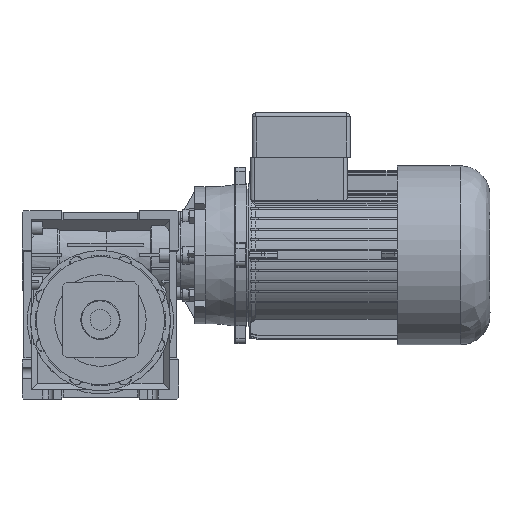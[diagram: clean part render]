
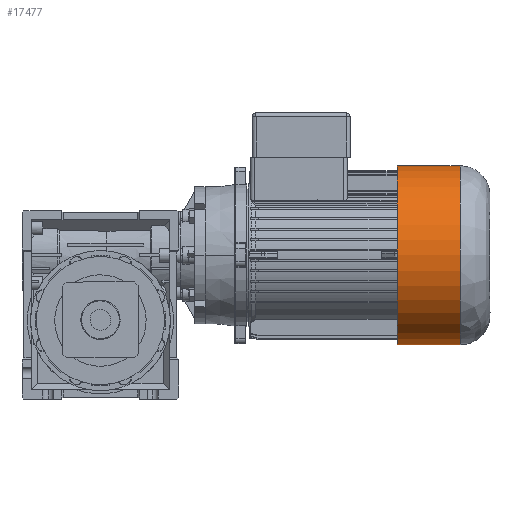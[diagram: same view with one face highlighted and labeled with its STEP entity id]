
A CAD part, top view. The second image highlights one B-rep face of the part: STEP entity #17477.
In plain terms, the highlighted cylindrical face has radius 68.5 mm (diameter 137 mm), a partial arc.
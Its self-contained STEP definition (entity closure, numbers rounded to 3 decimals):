
#56 = DIRECTION ( 'NONE',  ( 0., 1., 0. ) ) ;
#1428 = ORIENTED_EDGE ( 'NONE', *, *, #45005, .T. ) ;
#4193 = AXIS2_PLACEMENT_3D ( 'NONE', #80983, #40489, #56 ) ;
#5255 = LINE ( 'NONE', #38980, #75085 ) ;
#5458 = CYLINDRICAL_SURFACE ( 'NONE', #58731, 68.5 ) ;
#5754 = EDGE_CURVE ( 'NONE', #79980, #60866, #23516, .T. ) ;
#9938 = CIRCLE ( 'NONE', #29956, 68.5 ) ;
#10625 = FACE_OUTER_BOUND ( 'NONE', #58198, .T. ) ;
#11031 = CARTESIAN_POINT ( 'NONE',  ( 0., 68.5, -248. ) ) ;
#11176 = CARTESIAN_POINT ( 'NONE',  ( 0., 68.5, -225.167 ) ) ;
#13607 = CARTESIAN_POINT ( 'NONE',  ( 0., -68.5, -225.167 ) ) ;
#17477 = ADVANCED_FACE ( 'NONE', ( #10625 ), #5458, .T. ) ;
#18770 = EDGE_CURVE ( 'NONE', #41969, #60866, #9938, .T. ) ;
#23379 = CARTESIAN_POINT ( 'NONE',  ( 0., 68.5, -177. ) ) ;
#23516 = LINE ( 'NONE', #11031, #59562 ) ;
#24493 = CARTESIAN_POINT ( 'NONE',  ( 0., 0., -248. ) ) ;
#25596 = DIRECTION ( 'NONE',  ( 0., 0., -1. ) ) ;
#29956 = AXIS2_PLACEMENT_3D ( 'NONE', #33775, #81094, #40599 ) ;
#33224 = ORIENTED_EDGE ( 'NONE', *, *, #5754, .F. ) ;
#33752 = CARTESIAN_POINT ( 'NONE',  ( 0., -68.5, -177. ) ) ;
#33775 = CARTESIAN_POINT ( 'NONE',  ( 0., 0., -225.167 ) ) ;
#37137 = EDGE_CURVE ( 'NONE', #79980, #67291, #74010, .T. ) ;
#37429 = ORIENTED_EDGE ( 'NONE', *, *, #18770, .T. ) ;
#38980 = CARTESIAN_POINT ( 'NONE',  ( 0., -68.5, -248. ) ) ;
#40489 = DIRECTION ( 'NONE',  ( 0., 0., -1. ) ) ;
#40599 = DIRECTION ( 'NONE',  ( 0., 1., 0. ) ) ;
#41969 = VERTEX_POINT ( 'NONE', #13607 ) ;
#45005 = EDGE_CURVE ( 'NONE', #67291, #41969, #5255, .T. ) ;
#47800 = ORIENTED_EDGE ( 'NONE', *, *, #37137, .T. ) ;
#58198 = EDGE_LOOP ( 'NONE', ( #47800, #1428, #37429, #33224 ) ) ;
#58391 = DIRECTION ( 'NONE',  ( 0., 0., -1. ) ) ;
#58731 = AXIS2_PLACEMENT_3D ( 'NONE', #24493, #84812, #71868 ) ;
#59562 = VECTOR ( 'NONE', #58391, 1000. ) ;
#60866 = VERTEX_POINT ( 'NONE', #11176 ) ;
#67291 = VERTEX_POINT ( 'NONE', #33752 ) ;
#71868 = DIRECTION ( 'NONE',  ( 0., 1., 0. ) ) ;
#74010 = CIRCLE ( 'NONE', #4193, 68.5 ) ;
#75085 = VECTOR ( 'NONE', #25596, 1000. ) ;
#79980 = VERTEX_POINT ( 'NONE', #23379 ) ;
#80983 = CARTESIAN_POINT ( 'NONE',  ( 0., 0., -177. ) ) ;
#81094 = DIRECTION ( 'NONE',  ( 0., 0., 1. ) ) ;
#84812 = DIRECTION ( 'NONE',  ( 0., 0., -1. ) ) ;
